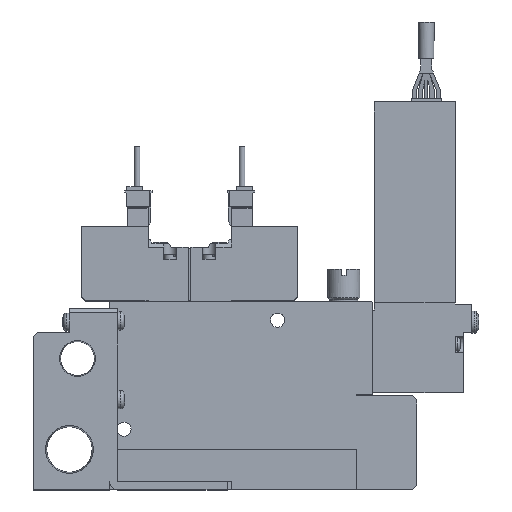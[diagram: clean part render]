
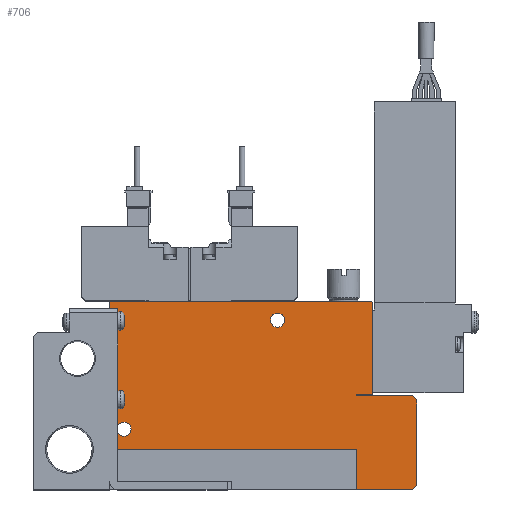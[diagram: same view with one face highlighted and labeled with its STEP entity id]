
A CAD part, top view. The second image highlights one B-rep face of the part: STEP entity #706.
In plain terms, the highlighted planar face has unit normal (0, 0, 1).
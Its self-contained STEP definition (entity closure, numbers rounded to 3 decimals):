
#706=ADVANCED_FACE('',(#1654,#1655,#1656),#1657,.F.);
#1654=FACE_OUTER_BOUND('',#2792,.T.);
#1655=FACE_BOUND('',#2793,.T.);
#1656=FACE_BOUND('',#2794,.T.);
#1657=PLANE('',#2795);
#2792=EDGE_LOOP('',(#6208,#6209,#6210,#6211,#6212,#6213,#6214,#6215,#6216,#6217,#6218,#6219,#6220,#6221));
#2793=EDGE_LOOP('',(#6222));
#2794=EDGE_LOOP('',(#6223));
#2795=AXIS2_PLACEMENT_3D('',#6224,#6225,#6226);
#6208=ORIENTED_EDGE('',*,*,#8029,.T.);
#6209=ORIENTED_EDGE('',*,*,#8108,.F.);
#6210=ORIENTED_EDGE('',*,*,#8135,.F.);
#6211=ORIENTED_EDGE('',*,*,#8117,.T.);
#6212=ORIENTED_EDGE('',*,*,#8079,.T.);
#6213=ORIENTED_EDGE('',*,*,#8120,.T.);
#6214=ORIENTED_EDGE('',*,*,#8142,.T.);
#6215=ORIENTED_EDGE('',*,*,#8137,.T.);
#6216=ORIENTED_EDGE('',*,*,#8131,.T.);
#6217=ORIENTED_EDGE('',*,*,#8123,.T.);
#6218=ORIENTED_EDGE('',*,*,#8100,.T.);
#6219=ORIENTED_EDGE('',*,*,#8086,.T.);
#6220=ORIENTED_EDGE('',*,*,#8090,.T.);
#6221=ORIENTED_EDGE('',*,*,#8140,.T.);
#6222=ORIENTED_EDGE('',*,*,#8144,.F.);
#6223=ORIENTED_EDGE('',*,*,#8129,.F.);
#6224=CARTESIAN_POINT('',(0.0,0.0,5.0));
#6225=DIRECTION('',(0.0,0.0,-1.0));
#6226=DIRECTION('',(0.0,-1.0,0.0));
#8029=EDGE_CURVE('',#9889,#9887,#9890,.T.);
#8079=EDGE_CURVE('',#9983,#9981,#9984,.T.);
#8086=EDGE_CURVE('',#9996,#9994,#9997,.T.);
#8090=EDGE_CURVE('',#9994,#10001,#10003,.T.);
#8100=EDGE_CURVE('',#10018,#9996,#10019,.T.);
#8108=EDGE_CURVE('',#10028,#9887,#10029,.T.);
#8117=EDGE_CURVE('',#10040,#9983,#10043,.T.);
#8120=EDGE_CURVE('',#9981,#10046,#10048,.T.);
#8123=EDGE_CURVE('',#10053,#10018,#10054,.T.);
#8129=EDGE_CURVE('',#10061,#10061,#10062,.T.);
#8131=EDGE_CURVE('',#10065,#10053,#10066,.T.);
#8135=EDGE_CURVE('',#10040,#10028,#10070,.T.);
#8137=EDGE_CURVE('',#10073,#10065,#10074,.T.);
#8140=EDGE_CURVE('',#10001,#9889,#10077,.T.);
#8142=EDGE_CURVE('',#10046,#10073,#10079,.T.);
#8144=EDGE_CURVE('',#10082,#10082,#10083,.T.);
#9887=VERTEX_POINT('',#12924);
#9889=VERTEX_POINT('',#12927);
#9890=LINE('',#12928,#12929);
#9981=VERTEX_POINT('',#13059);
#9983=VERTEX_POINT('',#13062);
#9984=LINE('',#13063,#13064);
#9994=VERTEX_POINT('',#13079);
#9996=VERTEX_POINT('',#13082);
#9997=LINE('',#13083,#13084);
#10001=VERTEX_POINT('',#13090);
#10003=LINE('',#13093,#13094);
#10018=VERTEX_POINT('',#13114);
#10019=LINE('',#13115,#13116);
#10028=VERTEX_POINT('',#13132);
#10029=LINE('',#13133,#13134);
#10040=VERTEX_POINT('',#13150);
#10043=LINE('',#13155,#13156);
#10046=VERTEX_POINT('',#13160);
#10048=LINE('',#13163,#13164);
#10053=VERTEX_POINT('',#13170);
#10054=LINE('',#13171,#13172);
#10061=VERTEX_POINT('',#13180);
#10062=CIRCLE('',#13181,1.75);
#10065=VERTEX_POINT('',#13185);
#10066=LINE('',#13186,#13187);
#10070=LINE('',#13194,#13195);
#10073=VERTEX_POINT('',#13199);
#10074=LINE('',#13200,#13201);
#10077=LINE('',#13206,#13207);
#10079=LINE('',#13210,#13211);
#10082=VERTEX_POINT('',#13214);
#10083=CIRCLE('',#13215,1.75);
#12924=CARTESIAN_POINT('',(0.0,10.1,5.0));
#12927=CARTESIAN_POINT('',(0.0,46.4,5.0));
#12928=CARTESIAN_POINT('',(0.0,46.4,5.0));
#12929=VECTOR('',#15391,1.0);
#13059=CARTESIAN_POINT('',(76.0,1.0,5.0));
#13062=CARTESIAN_POINT('',(75.0,0.0,5.0));
#13063=CARTESIAN_POINT('',(75.0,0.0,5.0));
#13064=VECTOR('',#15459,1.0);
#13079=CARTESIAN_POINT('',(64.8,46.6,5.0));
#13082=CARTESIAN_POINT('',(65.0,46.4,5.0));
#13083=CARTESIAN_POINT('',(65.0,46.4,5.0));
#13084=VECTOR('',#15466,1.0);
#13090=CARTESIAN_POINT('',(0.2,46.6,5.0));
#13093=CARTESIAN_POINT('',(64.8,46.6,5.0));
#13094=VECTOR('',#15470,1.0);
#13114=CARTESIAN_POINT('',(65.0,23.5,5.0));
#13115=CARTESIAN_POINT('',(65.0,23.5,5.0));
#13116=VECTOR('',#15488,1.0);
#13132=CARTESIAN_POINT('',(61.1,10.1,5.0));
#13133=CARTESIAN_POINT('',(61.1,10.1,5.0));
#13134=VECTOR('',#15496,1.0);
#13150=CARTESIAN_POINT('',(61.1,0.0,5.0));
#13155=CARTESIAN_POINT('',(0.0,0.0,5.0));
#13156=VECTOR('',#15507,1.0);
#13160=CARTESIAN_POINT('',(76.0,22.25,5.0));
#13163=CARTESIAN_POINT('',(76.0,1.0,5.0));
#13164=VECTOR('',#15510,1.0);
#13170=CARTESIAN_POINT('',(61.0,23.5,5.0));
#13171=CARTESIAN_POINT('',(61.0,23.5,5.0));
#13172=VECTOR('',#15515,1.0);
#13180=CARTESIAN_POINT('',(43.25,42.0,5.0));
#13181=AXIS2_PLACEMENT_3D('',#15529,#15530,#15531);
#13185=CARTESIAN_POINT('',(61.0,23.25,5.0));
#13186=CARTESIAN_POINT('',(61.0,23.25,5.0));
#13187=VECTOR('',#15533,1.0);
#13194=CARTESIAN_POINT('',(61.1,0.0,5.0));
#13195=VECTOR('',#15537,1.0);
#13199=CARTESIAN_POINT('',(75.0,23.25,5.0));
#13200=CARTESIAN_POINT('',(75.0,23.25,5.0));
#13201=VECTOR('',#15539,1.0);
#13206=CARTESIAN_POINT('',(0.2,46.6,5.0));
#13207=VECTOR('',#15542,1.0);
#13210=CARTESIAN_POINT('',(76.0,22.25,5.0));
#13211=VECTOR('',#15544,1.0);
#13214=CARTESIAN_POINT('',(5.25,15.0,5.0));
#13215=AXIS2_PLACEMENT_3D('',#15548,#15549,#15550);
#15391=DIRECTION('',(0.0,-1.0,0.0));
#15459=DIRECTION('',(0.707,0.707,0.0));
#15466=DIRECTION('',(-0.707,0.707,0.0));
#15470=DIRECTION('',(-1.0,0.0,0.0));
#15488=DIRECTION('',(0.0,1.0,0.0));
#15496=DIRECTION('',(-1.0,0.0,0.0));
#15507=DIRECTION('',(1.0,0.0,0.0));
#15510=DIRECTION('',(0.0,1.0,0.0));
#15515=DIRECTION('',(1.0,0.,0.0));
#15529=CARTESIAN_POINT('',(41.5,42.0,5.0));
#15530=DIRECTION('',(0.0,0.0,1.0));
#15531=DIRECTION('',(1.0,0.0,0.0));
#15533=DIRECTION('',(0.0,1.0,0.0));
#15537=DIRECTION('',(0.0,1.0,0.0));
#15539=DIRECTION('',(-1.0,0.0,0.0));
#15542=DIRECTION('',(-0.707,-0.707,0.0));
#15544=DIRECTION('',(-0.707,0.707,0.0));
#15548=CARTESIAN_POINT('',(3.5,15.0,5.0));
#15549=DIRECTION('',(0.0,0.0,1.0));
#15550=DIRECTION('',(1.0,0.0,0.0));
